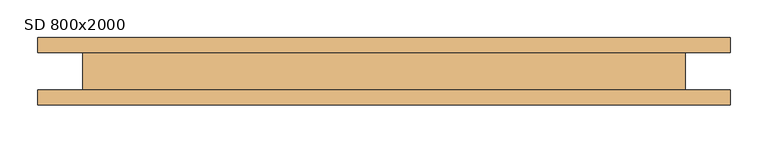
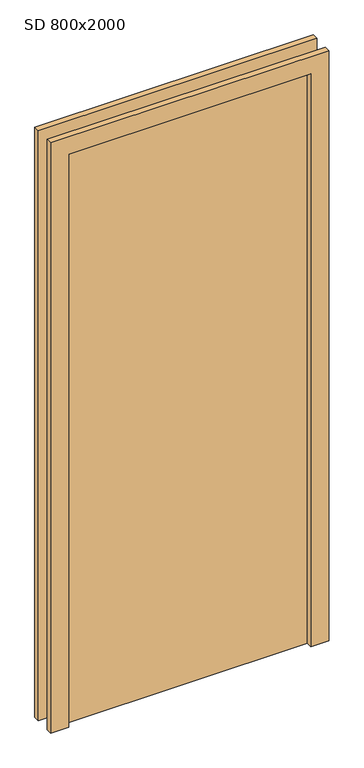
"""IFC4 building model written with IfcOpenShell, lengths in millimetres: door geometry, JednokridlePlne : SD 800x2000."""

import ifcopenshell
import ifcopenshell.guid

model = None  # the IFC model being written
_history = None  # IfcOwnerHistory: only IFC2X3 demands one
_inside = {}  # id of a spatial element -> (the spatial element, [elements in it])
_under = {}  # id of a project, library or spatial element -> (it, [spatial elements below it])
_declared = {}  # id of a project -> (the project, [libraries it declares])
_typed = {}  # id of a type object -> (the type object, [elements of that type])
_made_of = {}  # id of a material, layer set ... -> (it, [elements and type objects made of it])


def new_model(schema):
    """Start an empty IFC model of exactly this schema.

    Asked for "IFC4X3", IfcOpenShell would pick the latest addendum, in which some entities
    have other attributes; the version numbers below select the first issue.
    IFC2X3 requires an IfcOwnerHistory on every rooted entity: one is made here for all.
    """
    global model, _history
    if schema == "IFC4X3":
        model = ifcopenshell.file(schema_version=(4, 3, 0, 0))
    else:
        model = ifcopenshell.file(schema=schema)
    _inside.clear()
    _under.clear()
    _declared.clear()
    _typed.clear()
    _made_of.clear()
    _history = None
    if model.schema == "IFC2X3":
        org = make("IfcOrganization", Name="unknown")
        user = make(
            "IfcPersonAndOrganization",
            ThePerson=make("IfcPerson", FamilyName="unknown"),
            TheOrganization=org,
        )
        app = make(
            "IfcApplication",
            ApplicationDeveloper=org,
            Version="unknown",
            ApplicationFullName="unknown",
            ApplicationIdentifier="unknown",
        )
        _history = make(
            "IfcOwnerHistory",
            OwningUser=user,
            OwningApplication=app,
            ChangeAction="ADDED",
            CreationDate=0,
        )
    return model


def make(cls, **values):
    """One entity of the class cls with the attributes given. An attribute that is None is left unset."""
    return model.create_entity(
        cls, **{name: value for name, value in values.items() if value is not None}
    )


def rooted(cls, **values):
    """An entity with a GlobalId (a new one), such as an element, a storey or a relation."""
    return make(cls, GlobalId=ifcopenshell.guid.new(), OwnerHistory=_history, **values)


def si_unit(unit_type, name, prefix=None):
    """IfcSIUnit, for example si_unit("LENGTHUNIT", "METRE", prefix="MILLI")."""
    return make("IfcSIUnit", UnitType=unit_type, Prefix=prefix, Name=name)


def assignment(units):
    """IfcUnitAssignment: the units of a project."""
    return None if units is None else make("IfcUnitAssignment", Units=units)


def point(xyz):
    """IfcCartesianPoint."""
    return None if xyz is None else make("IfcCartesianPoint", Coordinates=xyz)


def direction(xyz):
    """IfcDirection."""
    return None if xyz is None else make("IfcDirection", DirectionRatios=xyz)


def frame(location, z_axis=None, x_axis=None):
    """IfcAxis2Placement3D, a coordinate frame: its origin and axes. An axis left out is left unset."""
    return make(
        "IfcAxis2Placement3D",
        Location=point(location),
        Axis=direction(z_axis),
        RefDirection=direction(x_axis),
    )


def origin():
    """The frame at (0, 0, 0) with its axes left unset."""
    return frame((0.0, 0.0, 0.0))


def origin_with_axes():
    """The frame at (0, 0, 0) with the z axis (0, 0, 1) and the x axis (1, 0, 0) written out."""
    return frame((0.0, 0.0, 0.0), z_axis=(0.0, 0.0, 1.0), x_axis=(1.0, 0.0, 0.0))


def place(relative_to, where):
    """IfcLocalPlacement: puts the frame where relative to a parent placement (None: the world)."""
    return make(
        "IfcLocalPlacement", PlacementRelTo=relative_to, RelativePlacement=where
    )


def context(
    kind, dimensions, precision=None, world=None, true_north=None, identifier=None
):
    """IfcGeometricRepresentationContext, for example the 3D "Model" context."""
    return make(
        "IfcGeometricRepresentationContext",
        ContextIdentifier=identifier,
        ContextType=kind,
        CoordinateSpaceDimension=dimensions,
        Precision=precision,
        WorldCoordinateSystem=world,
        TrueNorth=true_north,
    )


def project(units=None, contexts=None):
    """IfcProject with its units and contexts."""
    return rooted(
        "IfcProject",
        Name="project",
        RepresentationContexts=contexts,
        UnitsInContext=assignment(units),
    )


def spatial(cls, under=None, at=None, **own):
    """A site, building, storey or space (cls), placed at a placement, below another one or the project."""
    s = rooted(cls, ObjectPlacement=at, **own)
    if under is not None:
        _under.setdefault(under.id(), (under, []))[1].append(s)
    return s


def polyline(points):
    """IfcPolyline through the points."""
    return make("IfcPolyline", Points=[point(p) for p in points])


def outline(outer, holes=None, kind="AREA"):
    """IfcArbitraryClosedProfileDef: a profile drawn as a closed curve; with holes, ...WithVoids."""
    if holes is None:
        return make("IfcArbitraryClosedProfileDef", ProfileType=kind, OuterCurve=outer)
    return make(
        "IfcArbitraryProfileDefWithVoids",
        ProfileType=kind,
        OuterCurve=outer,
        InnerCurves=holes,
    )


def extrude(swept, where, along, depth):
    """IfcExtrudedAreaSolid: the profile swept, set in the frame where, extruded along a direction by depth."""
    return make(
        "IfcExtrudedAreaSolid",
        SweptArea=swept,
        Position=where,
        ExtrudedDirection=direction(along),
        Depth=depth,
    )


def shape(context_of_items, identifier, shape_type, items):
    """IfcShapeRepresentation: the items that make up one representation, for example the "Body"."""
    return make(
        "IfcShapeRepresentation",
        ContextOfItems=context_of_items,
        RepresentationIdentifier=identifier,
        RepresentationType=shape_type,
        Items=items,
    )


def source(mapping_origin, context_of_items, identifier, shape_type, items):
    """IfcRepresentationMap: a shape defined once, which mapped items show again and again."""
    return make(
        "IfcRepresentationMap",
        MappingOrigin=mapping_origin,
        MappedRepresentation=shape(context_of_items, identifier, shape_type, items),
    )


def transform(
    local_origin,
    x_axis=None,
    y_axis=None,
    z_axis=None,
    scale=None,
    scale2=None,
    scale3=None,
    uniform=True,
):
    """IfcCartesianTransformationOperator3D, or its non-uniform kind. x_axis, y_axis, z_axis: its Axis1, 2, 3."""
    if uniform:
        return make(
            "IfcCartesianTransformationOperator3D",
            Axis1=direction(x_axis),
            Axis2=direction(y_axis),
            LocalOrigin=point(local_origin),
            Scale=scale,
            Axis3=direction(z_axis),
        )
    return make(
        "IfcCartesianTransformationOperator3DnonUniform",
        Axis1=direction(x_axis),
        Axis2=direction(y_axis),
        LocalOrigin=point(local_origin),
        Scale=scale,
        Axis3=direction(z_axis),
        Scale2=scale2,
        Scale3=scale3,
    )


def mapped(mapping_source, mapping_target):
    """IfcMappedItem: shows the shape of a source again, moved by a transform."""
    return make(
        "IfcMappedItem", MappingSource=mapping_source, MappingTarget=mapping_target
    )


def made_of(thing, what):
    """Note that an element or type object is made of a material, layer set ...; save() writes the relation."""
    if what is not None:
        _made_of.setdefault(what.id(), (what, []))[1].append(thing)
    return thing


def element(
    cls,
    number,
    at=None,
    inside=None,
    cuts=None,
    type_object=None,
    material=None,
    context=None,
    identifier="Body",
    shape_type=None,
    held_by="IfcProductDefinitionShape",
    body=None,
    shapes=None,
    **own,
):
    """One element of the class cls, such as IfcWall. Its Tag is "e" and its number.

    at: its placement. inside: the storey or other place that contains it. cuts: it is an
    opening in that element (IfcRelVoidsElement). A single representation is given by context,
    identifier, shape_type and body (its items); several are given by shapes. held_by: the class
    of the entity that holds the representations. save() writes the other relations.
    """
    e = rooted(cls, Tag="e%d" % number, ObjectPlacement=at, **own)
    if body is not None:
        shapes = [shape(context, identifier, shape_type, body)]
    if shapes is not None:
        e.Representation = make(held_by, Representations=shapes)
    if inside is not None:
        _inside.setdefault(inside.id(), (inside, []))[1].append(e)
    if cuts is not None:
        rooted(
            "IfcRelVoidsElement", RelatingBuildingElement=cuts, RelatedOpeningElement=e
        )
    if type_object is not None:
        _typed.setdefault(type_object.id(), (type_object, []))[1].append(e)
    return made_of(e, material)


def aggregate(whole, parts):
    """IfcRelAggregates: a whole, such as a stair, and the parts it consists of."""
    return rooted("IfcRelAggregates", RelatingObject=whole, RelatedObjects=parts)


def save(model, path):
    """Write the relations noted so far, then the file.

    IfcRelAggregates (storeys below a building ...), IfcRelContainedInSpatialStructure (elements
    in a storey), IfcRelDefinesByType, IfcRelAssociatesMaterial and IfcRelDeclares: one each for
    every whole, place, type object, material and project.
    """
    for whole, parts in _under.values():
        aggregate(whole, parts)
    for where, things in _inside.values():
        rooted(
            "IfcRelContainedInSpatialStructure",
            RelatedElements=things,
            RelatingStructure=where,
        )
    for kind, things in _typed.values():
        rooted("IfcRelDefinesByType", RelatedObjects=things, RelatingType=kind)
    for what, things in _made_of.values():
        rooted("IfcRelAssociatesMaterial", RelatedObjects=things, RelatingMaterial=what)
    for by, libraries in _declared.values():
        rooted("IfcRelDeclares", RelatingContext=by, RelatedDefinitions=libraries)
    model.write(path)


def sd_800x2000_125e4961(model_context):
    return source(origin(), model_context, "Body", "SweptSolid", [
        extrude(outline(polyline([(2060.0, -460.0), (0.0, -460.0), (0.0, -400.0), (2000.0, -400.0), (2000.0, 400.0), (0.0, 400.0), (0.0, 460.0), (2060.0, 460.0), (2060.0, -460.0)])), frame((0.0, -45.0, 0.0), z_axis=(0.0, 1.0, 0.0), x_axis=(0.0, 0.0, 1.0)), (0.0, 0.0, 1.0), 20.0),
        extrude(outline(polyline([(2060.0, 460.0), (2060.0, -460.0), (0.0, -460.0), (0.0, -400.0), (2000.0, -400.0), (2000.0, 400.0), (0.0, 400.0), (0.0, 460.0), (2060.0, 460.0)])), frame((0.0, 25.0, 0.0), z_axis=(0.0, 1.0, 0.0), x_axis=(0.0, 0.0, 1.0)), (0.0, 0.0, 1.0), 20.0),
        extrude(outline(polyline([(400.0, 25.0), (400.0, -25.0), (-400.0, -25.0), (-400.0, 25.0), (400.0, 25.0)])), origin_with_axes(), (0.0, 0.0, 1.0), 2000.0),
    ])


if __name__ == "__main__":
    model = new_model("IFC4")
    model_context = context("Model", 3, world=origin())
    ifc_project = project(units=[si_unit("LENGTHUNIT", "METRE", prefix="MILLI")], contexts=[model_context])
    site = spatial("IfcSite", under=ifc_project)
    building = spatial("IfcBuilding", under=site)
    placement = place(None, origin())
    sd_800x2000_shape = sd_800x2000_125e4961(model_context)
    element("IfcDoor", 1, ObjectType="JednokridlePlne : SD 800x2000", at=placement, inside=building, context=model_context, shape_type="MappedRepresentation", body=[
        mapped(sd_800x2000_shape, transform((0.0, 0.0, 0.0), x_axis=(1.0, 0.0, 0.0), y_axis=(0.0, 1.0, 0.0), z_axis=(0.0, 0.0, 1.0))),
    ])
    save(model, "model.ifc")
